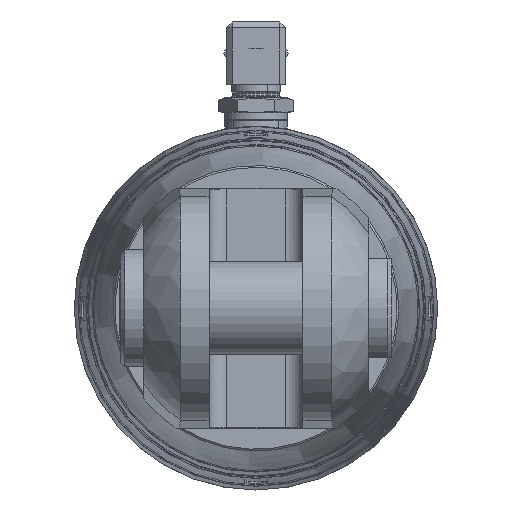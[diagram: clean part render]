
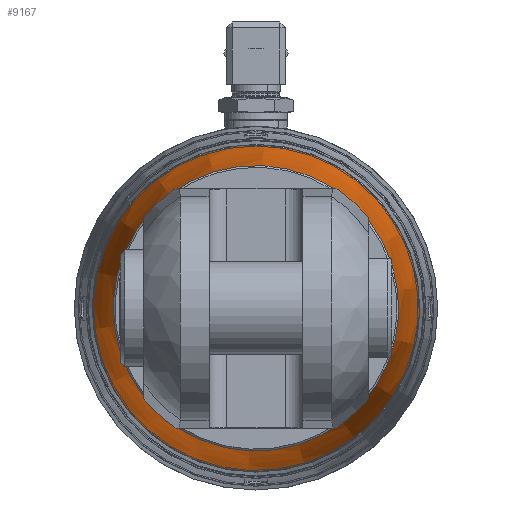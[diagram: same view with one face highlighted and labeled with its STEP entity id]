
A CAD part, left-side view. The second image highlights one B-rep face of the part: STEP entity #9167.
In plain terms, the highlighted conical face has half-angle 10 degrees and reference radius 52.073 mm.
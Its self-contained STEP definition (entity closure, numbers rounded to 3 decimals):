
#146=CONICAL_SURFACE('',#10130,52.073,0.175);
#1178=LINE('',#16571,#1762);
#1762=VECTOR('',#12588,52.073);
#2824=FACE_OUTER_BOUND('',#3370,.T.);
#3370=EDGE_LOOP('',(#8519,#8520,#8521,#8522,#8523,#8524));
#3812=CIRCLE('',#10128,55.601);
#3813=CIRCLE('',#10129,55.601);
#3814=CIRCLE('',#10131,48.545);
#3815=CIRCLE('',#10132,48.545);
#4711=VERTEX_POINT('',#16561);
#4712=VERTEX_POINT('',#16562);
#4713=VERTEX_POINT('',#16567);
#4714=VERTEX_POINT('',#16568);
#5987=EDGE_CURVE('',#4711,#4712,#3812,.T.);
#5988=EDGE_CURVE('',#4712,#4711,#3813,.T.);
#5990=EDGE_CURVE('',#4713,#4714,#3814,.T.);
#5991=EDGE_CURVE('',#4714,#4713,#3815,.T.);
#5992=EDGE_CURVE('',#4714,#4712,#1178,.T.);
#8519=ORIENTED_EDGE('',*,*,#5990,.F.);
#8520=ORIENTED_EDGE('',*,*,#5991,.F.);
#8521=ORIENTED_EDGE('',*,*,#5992,.T.);
#8522=ORIENTED_EDGE('',*,*,#5987,.F.);
#8523=ORIENTED_EDGE('',*,*,#5988,.F.);
#8524=ORIENTED_EDGE('',*,*,#5992,.F.);
#9167=ADVANCED_FACE('',(#2824),#146,.T.);
#10128=AXIS2_PLACEMENT_3D('',#16563,#12577,#12578);
#10129=AXIS2_PLACEMENT_3D('',#16564,#12579,#12580);
#10130=AXIS2_PLACEMENT_3D('',#16566,#12582,#12583);
#10131=AXIS2_PLACEMENT_3D('',#16569,#12584,#12585);
#10132=AXIS2_PLACEMENT_3D('',#16570,#12586,#12587);
#12577=DIRECTION('center_axis',(1.,0.,0.));
#12578=DIRECTION('ref_axis',(0.,0.605,0.796));
#12579=DIRECTION('center_axis',(1.,0.,0.));
#12580=DIRECTION('ref_axis',(0.,0.605,0.796));
#12582=DIRECTION('center_axis',(1.,0.,0.));
#12583=DIRECTION('ref_axis',(0.,-0.605,-0.796));
#12584=DIRECTION('center_axis',(-1.,0.,0.));
#12585=DIRECTION('ref_axis',(0.,0.605,0.796));
#12586=DIRECTION('center_axis',(-1.,0.,0.));
#12587=DIRECTION('ref_axis',(0.,0.605,0.796));
#12588=DIRECTION('',(0.985,0.105,0.138));
#16561=CARTESIAN_POINT('',(-1058.142,-33.658,-44.256));
#16562=CARTESIAN_POINT('',(-1058.142,33.658,44.256));
#16563=CARTESIAN_POINT('Origin',(-1058.142,0.,
0.));
#16564=CARTESIAN_POINT('Origin',(-1058.142,0.,
0.));
#16566=CARTESIAN_POINT('Origin',(-1078.15,0.,0.));
#16567=CARTESIAN_POINT('',(-1098.158,-29.387,-38.64));
#16568=CARTESIAN_POINT('',(-1098.158,29.387,38.64));
#16569=CARTESIAN_POINT('Origin',(-1098.158,0.,
0.));
#16570=CARTESIAN_POINT('Origin',(-1098.158,0.,
0.));
#16571=CARTESIAN_POINT('',(-1078.15,31.522,41.448));
